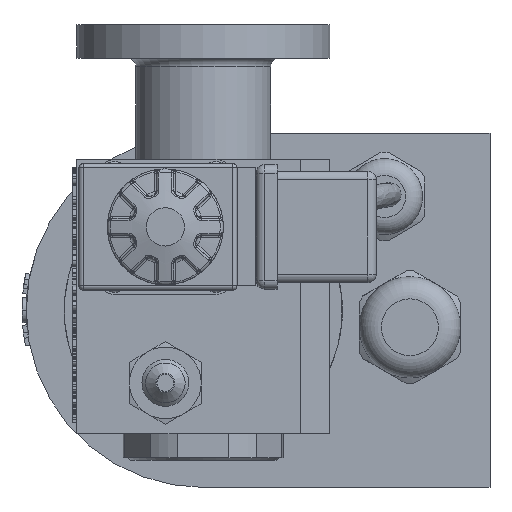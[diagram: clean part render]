
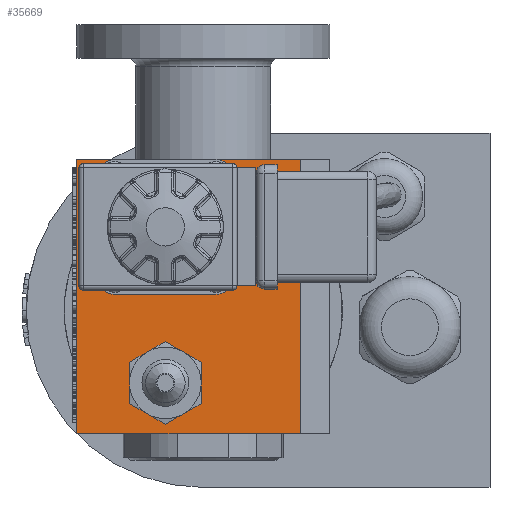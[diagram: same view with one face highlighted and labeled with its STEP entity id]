
A CAD part, left-side view. The second image highlights one B-rep face of the part: STEP entity #35669.
In plain terms, the highlighted planar face has unit normal (-1, 0, 0).
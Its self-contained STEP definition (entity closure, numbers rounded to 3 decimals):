
#842=CIRCLE('',#37148,8.5);
#843=CIRCLE('',#37150,8.5);
#844=CIRCLE('',#37152,8.5);
#845=CIRCLE('',#37154,8.5);
#846=CIRCLE('',#37156,8.5);
#847=CIRCLE('',#37158,8.5);
#992=CIRCLE('',#37479,3.975);
#993=CIRCLE('',#37480,3.975);
#994=CIRCLE('',#37481,3.975);
#995=CIRCLE('',#37482,3.975);
#2707=FACE_BOUND('',#7248,.T.);
#2708=FACE_BOUND('',#7249,.T.);
#3587=PLANE('',#37478);
#5082=FACE_OUTER_BOUND('',#7247,.T.);
#7247=EDGE_LOOP('',(#30978,#30979,#30980,#30981));
#7248=EDGE_LOOP('',(#30982,#30983,#30984,#30985,#30986,#30987));
#7249=EDGE_LOOP('',(#30988,#30989,#30990,#30991,#30992,#30993,#30994,#30995));
#10107=LINE('',#57934,#13041);
#10393=LINE('',#64165,#13327);
#10397=LINE('',#64171,#13331);
#10418=LINE('',#64357,#13352);
#10469=LINE('',#64826,#13403);
#10470=LINE('',#64830,#13404);
#10471=LINE('',#64834,#13405);
#10472=LINE('',#64838,#13406);
#13041=VECTOR('',#42262,10.);
#13327=VECTOR('',#43254,10.);
#13331=VECTOR('',#43260,10.);
#13352=VECTOR('',#43447,10.);
#13403=VECTOR('',#43616,10.);
#13404=VECTOR('',#43619,10.);
#13405=VECTOR('',#43622,10.);
#13406=VECTOR('',#43625,10.);
#16999=VERTEX_POINT('',#57924);
#17003=VERTEX_POINT('',#57932);
#17198=VERTEX_POINT('',#63516);
#17199=VERTEX_POINT('',#63520);
#17200=VERTEX_POINT('',#63526);
#17203=VERTEX_POINT('',#63537);
#17205=VERTEX_POINT('',#63547);
#17206=VERTEX_POINT('',#63556);
#17378=VERTEX_POINT('',#64162);
#17379=VERTEX_POINT('',#64164);
#17484=VERTEX_POINT('',#64824);
#17485=VERTEX_POINT('',#64825);
#17486=VERTEX_POINT('',#64827);
#17487=VERTEX_POINT('',#64829);
#17488=VERTEX_POINT('',#64831);
#17489=VERTEX_POINT('',#64833);
#17490=VERTEX_POINT('',#64835);
#17491=VERTEX_POINT('',#64837);
#21344=EDGE_CURVE('',#16999,#17003,#10107,.T.);
#21611=EDGE_CURVE('',#17198,#17199,#842,.T.);
#21613=EDGE_CURVE('',#17199,#17200,#843,.T.);
#21617=EDGE_CURVE('',#17203,#17198,#844,.T.);
#21620=EDGE_CURVE('',#17205,#17203,#845,.T.);
#21622=EDGE_CURVE('',#17200,#17206,#846,.T.);
#21625=EDGE_CURVE('',#17206,#17205,#847,.T.);
#21894=EDGE_CURVE('',#17378,#17379,#10393,.T.);
#21898=EDGE_CURVE('',#17378,#16999,#10397,.T.);
#21976=EDGE_CURVE('',#17003,#17379,#10418,.T.);
#22067=EDGE_CURVE('',#17484,#17485,#10469,.T.);
#22068=EDGE_CURVE('',#17485,#17486,#992,.T.);
#22069=EDGE_CURVE('',#17486,#17487,#10470,.T.);
#22070=EDGE_CURVE('',#17487,#17488,#993,.T.);
#22071=EDGE_CURVE('',#17488,#17489,#10471,.T.);
#22072=EDGE_CURVE('',#17489,#17490,#994,.T.);
#22073=EDGE_CURVE('',#17490,#17491,#10472,.T.);
#22074=EDGE_CURVE('',#17491,#17484,#995,.T.);
#30978=ORIENTED_EDGE('',*,*,#21894,.F.);
#30979=ORIENTED_EDGE('',*,*,#21898,.T.);
#30980=ORIENTED_EDGE('',*,*,#21344,.T.);
#30981=ORIENTED_EDGE('',*,*,#21976,.T.);
#30982=ORIENTED_EDGE('',*,*,#21611,.T.);
#30983=ORIENTED_EDGE('',*,*,#21613,.T.);
#30984=ORIENTED_EDGE('',*,*,#21622,.T.);
#30985=ORIENTED_EDGE('',*,*,#21625,.T.);
#30986=ORIENTED_EDGE('',*,*,#21620,.T.);
#30987=ORIENTED_EDGE('',*,*,#21617,.T.);
#30988=ORIENTED_EDGE('',*,*,#22067,.T.);
#30989=ORIENTED_EDGE('',*,*,#22068,.T.);
#30990=ORIENTED_EDGE('',*,*,#22069,.T.);
#30991=ORIENTED_EDGE('',*,*,#22070,.T.);
#30992=ORIENTED_EDGE('',*,*,#22071,.T.);
#30993=ORIENTED_EDGE('',*,*,#22072,.T.);
#30994=ORIENTED_EDGE('',*,*,#22073,.T.);
#30995=ORIENTED_EDGE('',*,*,#22074,.T.);
#35669=ADVANCED_FACE('',(#5082,#2707,#2708),#3587,.T.);
#37148=AXIS2_PLACEMENT_3D('',#63524,#42710,#42711);
#37150=AXIS2_PLACEMENT_3D('',#63531,#42714,#42715);
#37152=AXIS2_PLACEMENT_3D('',#63544,#42718,#42719);
#37154=AXIS2_PLACEMENT_3D('',#63554,#42722,#42723);
#37156=AXIS2_PLACEMENT_3D('',#63561,#42726,#42727);
#37158=AXIS2_PLACEMENT_3D('',#63570,#42730,#42731);
#37478=AXIS2_PLACEMENT_3D('',#64823,#43614,#43615);
#37479=AXIS2_PLACEMENT_3D('',#64828,#43617,#43618);
#37480=AXIS2_PLACEMENT_3D('',#64832,#43620,#43621);
#37481=AXIS2_PLACEMENT_3D('',#64836,#43623,#43624);
#37482=AXIS2_PLACEMENT_3D('',#64839,#43626,#43627);
#42262=DIRECTION('',(0.,0.,-1.));
#42710=DIRECTION('center_axis',(1.,0.,0.));
#42711=DIRECTION('ref_axis',(0.,0.,
1.));
#42714=DIRECTION('center_axis',(1.,0.,0.));
#42715=DIRECTION('ref_axis',(0.,0.,
1.));
#42718=DIRECTION('center_axis',(1.,0.,0.));
#42719=DIRECTION('ref_axis',(0.,0.,
1.));
#42722=DIRECTION('center_axis',(1.,0.,0.));
#42723=DIRECTION('ref_axis',(0.,0.,
1.));
#42726=DIRECTION('center_axis',(1.,0.,0.));
#42727=DIRECTION('ref_axis',(0.,0.,
1.));
#42730=DIRECTION('center_axis',(1.,0.,0.));
#42731=DIRECTION('ref_axis',(0.,0.,
1.));
#43254=DIRECTION('',(0.,0.,-1.));
#43260=DIRECTION('',(0.,1.,0.));
#43447=DIRECTION('',(0.,-1.,0.));
#43614=DIRECTION('center_axis',(-1.,0.,0.));
#43615=DIRECTION('ref_axis',(0.,0.,1.));
#43616=DIRECTION('',(0.,0.,1.));
#43617=DIRECTION('center_axis',(1.,0.,0.));
#43618=DIRECTION('ref_axis',(0.,0.,-1.));
#43619=DIRECTION('',(0.,-1.,0.));
#43620=DIRECTION('center_axis',(1.,0.,0.));
#43621=DIRECTION('ref_axis',(0.,0.,-1.));
#43622=DIRECTION('',(0.,0.,-1.));
#43623=DIRECTION('center_axis',(1.,0.,0.));
#43624=DIRECTION('ref_axis',(0.,0.,-1.));
#43625=DIRECTION('',(0.,1.,0.));
#43626=DIRECTION('center_axis',(1.,0.,0.));
#43627=DIRECTION('ref_axis',(0.,0.,-1.));
#57924=CARTESIAN_POINT('',(-28.,59.5,65.));
#57932=CARTESIAN_POINT('',(-28.,59.5,0.));
#57934=CARTESIAN_POINT('',(-28.,59.5,65.));
#63516=CARTESIAN_POINT('',(-28.,42.75,4.639));
#63520=CARTESIAN_POINT('',(-28.,47.,12.));
#63524=CARTESIAN_POINT('Origin',(-28.,38.5,12.));
#63526=CARTESIAN_POINT('',(-28.,42.75,19.361));
#63531=CARTESIAN_POINT('Origin',(-28.,38.5,12.));
#63537=CARTESIAN_POINT('',(-28.,34.25,4.639));
#63544=CARTESIAN_POINT('Origin',(-28.,38.5,12.));
#63547=CARTESIAN_POINT('',(-28.,30.,12.));
#63554=CARTESIAN_POINT('Origin',(-28.,38.5,12.));
#63556=CARTESIAN_POINT('',(-28.,34.25,19.361));
#63561=CARTESIAN_POINT('Origin',(-28.,38.5,12.));
#63570=CARTESIAN_POINT('Origin',(-28.,38.5,12.));
#64162=CARTESIAN_POINT('',(-28.,6.5,65.));
#64164=CARTESIAN_POINT('',(-28.,6.5,0.));
#64165=CARTESIAN_POINT('',(-28.,6.5,32.5));
#64171=CARTESIAN_POINT('',(-28.,-0.5,65.));
#64357=CARTESIAN_POINT('',(-28.,59.5,0.));
#64823=CARTESIAN_POINT('Origin',(-28.,29.5,32.5));
#64824=CARTESIAN_POINT('',(-28.,54.475,37.));
#64825=CARTESIAN_POINT('',(-28.,54.475,61.));
#64826=CARTESIAN_POINT('',(-28.,54.475,36.52));
#64827=CARTESIAN_POINT('',(-28.,50.5,64.975));
#64828=CARTESIAN_POINT('Origin',(-28.,50.5,61.));
#64829=CARTESIAN_POINT('',(-28.,26.5,64.975));
#64830=CARTESIAN_POINT('',(-28.,50.98,64.975));
#64831=CARTESIAN_POINT('',(-28.,22.525,61.));
#64832=CARTESIAN_POINT('Origin',(-28.,26.5,61.));
#64833=CARTESIAN_POINT('',(-28.,22.525,37.));
#64834=CARTESIAN_POINT('',(-28.,22.525,61.48));
#64835=CARTESIAN_POINT('',(-28.,26.5,33.025));
#64836=CARTESIAN_POINT('Origin',(-28.,26.5,37.));
#64837=CARTESIAN_POINT('',(-28.,50.5,33.025));
#64838=CARTESIAN_POINT('',(-28.,26.02,33.025));
#64839=CARTESIAN_POINT('Origin',(-28.,50.5,37.));
